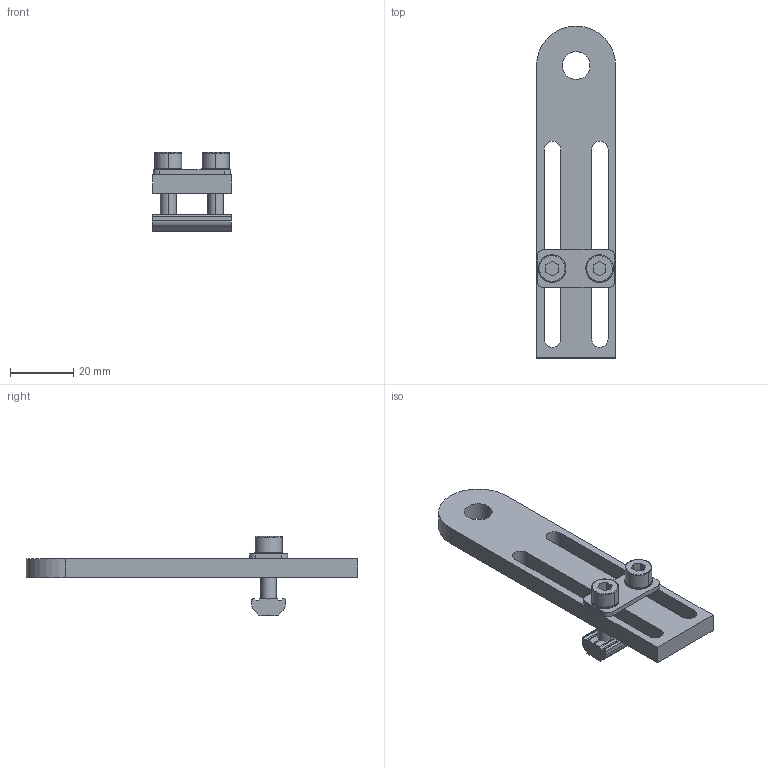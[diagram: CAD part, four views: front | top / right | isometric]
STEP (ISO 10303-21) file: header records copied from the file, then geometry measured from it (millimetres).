
FILE_DESCRIPTION (( 'STEP AP214' ), '1' );
FILE_NAME ('SMBE5-G1860T.STEP', '2022-12-26T07:57:04', ( '' ), ( '' ), 'SwSTEP 2.0', 'SolidWorks 2018', '' );
FILE_SCHEMA (( 'AUTOMOTIVE_DESIGN' ));
Length unit declared in the file: millimetre
Products named in the file (1): SMBE5-G1860T
Bounding box: 25.05 x 105 x 25 mm (x, y, z)
Volume: 13727.4 mm3; surface area: 9969.2 mm2
Topology: 7 solids, 7 shells, 508 faces, 1474 edges, 976 vertices
Faces by surface type: plane 447, cylinder 53, cone 4, bspline 4
Entity records: 22888 total; most frequent: CARTESIAN_POINT 3421, ORIENTED_EDGE 2948, DIRECTION 2918, EDGE_CURVE 1474, AXIS2_PLACEMENT_3D 979, VERTEX_POINT 976, LINE 960, VECTOR 960
